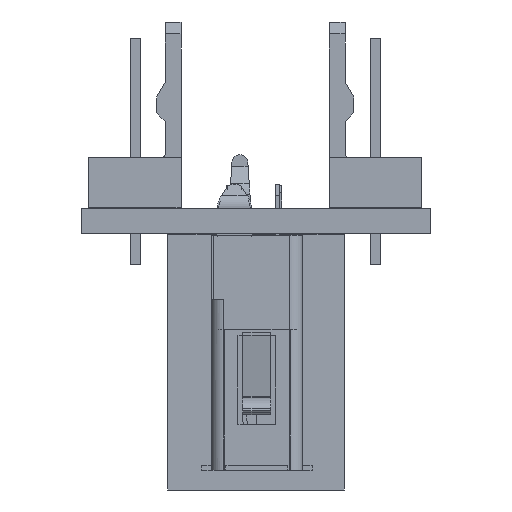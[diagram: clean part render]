
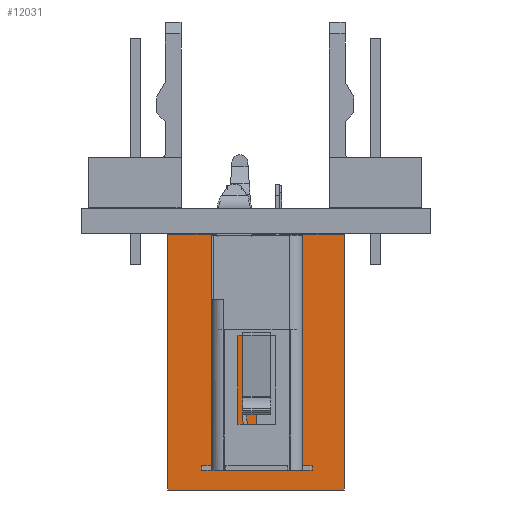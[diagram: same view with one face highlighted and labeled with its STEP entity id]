
A CAD part, front view. The second image highlights one B-rep face of the part: STEP entity #12031.
In plain terms, the highlighted planar face has unit normal (0, -1, 0) as drawn and (-1, 0, 0) by its records, which use the part's own axes.
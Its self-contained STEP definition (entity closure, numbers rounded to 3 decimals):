
#9672 = PLANE('',#9673);
#9673 = AXIS2_PLACEMENT_3D('',#9674,#9675,#9676);
#9674 = CARTESIAN_POINT('',(-7.5,-1.815,-8.05));
#9675 = DIRECTION('',(0.,0.998,0.066));
#9676 = DIRECTION('',(0.,-0.066,0.998));
#9852 = PLANE('',#9853);
#9853 = AXIS2_PLACEMENT_3D('',#9854,#9855,#9856);
#9854 = CARTESIAN_POINT('',(-7.5,-0.215,-8.05));
#9855 = DIRECTION('',(0.,-0.998,0.066));
#9856 = DIRECTION('',(0.,-0.066,-0.998));
#10623 = PLANE('',#10624);
#10624 = AXIS2_PLACEMENT_3D('',#10625,#10626,#10627);
#10625 = CARTESIAN_POINT('',(-6.05,-5.55,-8.05));
#10626 = DIRECTION('',(0.,0.,1.));
#10627 = DIRECTION('',(1.,0.,0.));
#10927 = VERTEX_POINT('',#10928);
#10928 = CARTESIAN_POINT('',(-6.05,-5.55,-8.05));
#10942 = PLANE('',#10943);
#10943 = AXIS2_PLACEMENT_3D('',#10944,#10945,#10946);
#10944 = CARTESIAN_POINT('',(-6.05,-5.55,8.05));
#10945 = DIRECTION('',(0.,1.,0.));
#10946 = DIRECTION('',(0.,0.,1.));
#10954 = EDGE_CURVE('',#10955,#10927,#10957,.T.);
#10955 = VERTEX_POINT('',#10956);
#10956 = CARTESIAN_POINT('',(-6.05,-1.815,-8.05));
#10957 = SURFACE_CURVE('',#10958,(#10962,#10969),.PCURVE_S1.);
#10958 = LINE('',#10959,#10960);
#10959 = CARTESIAN_POINT('',(-6.05,5.55,-8.05));
#10960 = VECTOR('',#10961,1.);
#10961 = DIRECTION('',(0.,-1.,0.));
#10962 = PCURVE('',#10623,#10963);
#10963 = DEFINITIONAL_REPRESENTATION('',(#10964),#10968);
#10964 = LINE('',#10965,#10966);
#10965 = CARTESIAN_POINT('',(0.,11.1));
#10966 = VECTOR('',#10967,1.);
#10967 = DIRECTION('',(0.,-1.));
#10968 = ( GEOMETRIC_REPRESENTATION_CONTEXT(2) 
PARAMETRIC_REPRESENTATION_CONTEXT() REPRESENTATION_CONTEXT('2D SPACE',''
  ) );
#10969 = PCURVE('',#10970,#10975);
#10970 = PLANE('',#10971);
#10971 = AXIS2_PLACEMENT_3D('',#10972,#10973,#10974);
#10972 = CARTESIAN_POINT('',(-6.05,5.55,8.05));
#10973 = DIRECTION('',(1.,0.,0.));
#10974 = DIRECTION('',(0.,1.,0.));
#10975 = DEFINITIONAL_REPRESENTATION('',(#10976),#10980);
#10976 = LINE('',#10977,#10978);
#10977 = CARTESIAN_POINT('',(0.,-16.1));
#10978 = VECTOR('',#10979,1.);
#10979 = DIRECTION('',(-1.,0.));
#10980 = ( GEOMETRIC_REPRESENTATION_CONTEXT(2) 
PARAMETRIC_REPRESENTATION_CONTEXT() REPRESENTATION_CONTEXT('2D SPACE',''
  ) );
#11034 = VERTEX_POINT('',#11035);
#11035 = CARTESIAN_POINT('',(-6.05,-0.215,-8.05));
#11056 = EDGE_CURVE('',#11057,#11034,#11059,.T.);
#11057 = VERTEX_POINT('',#11058);
#11058 = CARTESIAN_POINT('',(-6.05,5.55,-8.05));
#11059 = SURFACE_CURVE('',#11060,(#11064,#11071),.PCURVE_S1.);
#11060 = LINE('',#11061,#11062);
#11061 = CARTESIAN_POINT('',(-6.05,5.55,-8.05));
#11062 = VECTOR('',#11063,1.);
#11063 = DIRECTION('',(0.,-1.,0.));
#11064 = PCURVE('',#10623,#11065);
#11065 = DEFINITIONAL_REPRESENTATION('',(#11066),#11070);
#11066 = LINE('',#11067,#11068);
#11067 = CARTESIAN_POINT('',(0.,11.1));
#11068 = VECTOR('',#11069,1.);
#11069 = DIRECTION('',(0.,-1.));
#11070 = ( GEOMETRIC_REPRESENTATION_CONTEXT(2) 
PARAMETRIC_REPRESENTATION_CONTEXT() REPRESENTATION_CONTEXT('2D SPACE',''
  ) );
#11071 = PCURVE('',#10970,#11072);
#11072 = DEFINITIONAL_REPRESENTATION('',(#11073),#11077);
#11073 = LINE('',#11074,#11075);
#11074 = CARTESIAN_POINT('',(0.,-16.1));
#11075 = VECTOR('',#11076,1.);
#11076 = DIRECTION('',(-1.,0.));
#11077 = ( GEOMETRIC_REPRESENTATION_CONTEXT(2) 
PARAMETRIC_REPRESENTATION_CONTEXT() REPRESENTATION_CONTEXT('2D SPACE',''
  ) );
#11095 = PLANE('',#11096);
#11096 = AXIS2_PLACEMENT_3D('',#11097,#11098,#11099);
#11097 = CARTESIAN_POINT('',(-6.05,5.55,8.05));
#11098 = DIRECTION('',(0.,-1.,0.));
#11099 = DIRECTION('',(0.,0.,-1.));
#12031 = ADVANCED_FACE('',(#12032),#10970,.F.);
#12032 = FACE_BOUND('',#12033,.T.);
#12033 = EDGE_LOOP('',(#12034,#12063,#12084,#12085,#12108,#12136,#12157,
    #12158));
#12034 = ORIENTED_EDGE('',*,*,#12035,.F.);
#12035 = EDGE_CURVE('',#12036,#12038,#12040,.T.);
#12036 = VERTEX_POINT('',#12037);
#12037 = CARTESIAN_POINT('',(-6.05,-1.795,-8.346));
#12038 = VERTEX_POINT('',#12039);
#12039 = CARTESIAN_POINT('',(-6.05,-0.234,-8.346));
#12040 = SURFACE_CURVE('',#12041,(#12045,#12052),.PCURVE_S1.);
#12041 = LINE('',#12042,#12043);
#12042 = CARTESIAN_POINT('',(-6.05,-1.815,-8.346));
#12043 = VECTOR('',#12044,1.);
#12044 = DIRECTION('',(0.,1.,0.));
#12045 = PCURVE('',#10970,#12046);
#12046 = DEFINITIONAL_REPRESENTATION('',(#12047),#12051);
#12047 = LINE('',#12048,#12049);
#12048 = CARTESIAN_POINT('',(-7.365,-16.396));
#12049 = VECTOR('',#12050,1.);
#12050 = DIRECTION('',(1.,0.));
#12051 = ( GEOMETRIC_REPRESENTATION_CONTEXT(2) 
PARAMETRIC_REPRESENTATION_CONTEXT() REPRESENTATION_CONTEXT('2D SPACE',''
  ) );
#12052 = PCURVE('',#12053,#12058);
#12053 = CYLINDRICAL_SURFACE('',#12054,1.5);
#12054 = AXIS2_PLACEMENT_3D('',#12055,#12056,#12057);
#12055 = CARTESIAN_POINT('',(-7.55,-1.815,-8.346));
#12056 = DIRECTION('',(0.,1.,0.));
#12057 = DIRECTION('',(-1.,0.,0.));
#12058 = DEFINITIONAL_REPRESENTATION('',(#12059),#12062);
#12059 = B_SPLINE_CURVE_WITH_KNOTS('',1,(#12060,#12061),.UNSPECIFIED.,
  .F.,.F.,(2,2),(0.02,1.58),
  .PIECEWISE_BEZIER_KNOTS.);
#12060 = CARTESIAN_POINT('',(3.142,0.02));
#12061 = CARTESIAN_POINT('',(3.142,1.58));
#12062 = ( GEOMETRIC_REPRESENTATION_CONTEXT(2) 
PARAMETRIC_REPRESENTATION_CONTEXT() REPRESENTATION_CONTEXT('2D SPACE',''
  ) );
#12063 = ORIENTED_EDGE('',*,*,#12064,.T.);
#12064 = EDGE_CURVE('',#12036,#10955,#12065,.T.);
#12065 = SURFACE_CURVE('',#12066,(#12070,#12077),.PCURVE_S1.);
#12066 = LINE('',#12067,#12068);
#12067 = CARTESIAN_POINT('',(-6.05,-2.847,7.492));
#12068 = VECTOR('',#12069,1.);
#12069 = DIRECTION('',(0.,-0.066,
    0.998));
#12070 = PCURVE('',#10970,#12071);
#12071 = DEFINITIONAL_REPRESENTATION('',(#12072),#12076);
#12072 = LINE('',#12073,#12074);
#12073 = CARTESIAN_POINT('',(-8.397,-0.558));
#12074 = VECTOR('',#12075,1.);
#12075 = DIRECTION('',(-0.066,0.998));
#12076 = ( GEOMETRIC_REPRESENTATION_CONTEXT(2) 
PARAMETRIC_REPRESENTATION_CONTEXT() REPRESENTATION_CONTEXT('2D SPACE',''
  ) );
#12077 = PCURVE('',#9672,#12078);
#12078 = DEFINITIONAL_REPRESENTATION('',(#12079),#12083);
#12079 = LINE('',#12080,#12081);
#12080 = CARTESIAN_POINT('',(15.577,1.45));
#12081 = VECTOR('',#12082,1.);
#12082 = DIRECTION('',(1.,0.));
#12083 = ( GEOMETRIC_REPRESENTATION_CONTEXT(2) 
PARAMETRIC_REPRESENTATION_CONTEXT() REPRESENTATION_CONTEXT('2D SPACE',''
  ) );
#12084 = ORIENTED_EDGE('',*,*,#10954,.T.);
#12085 = ORIENTED_EDGE('',*,*,#12086,.F.);
#12086 = EDGE_CURVE('',#12087,#10927,#12089,.T.);
#12087 = VERTEX_POINT('',#12088);
#12088 = CARTESIAN_POINT('',(-6.05,-5.55,8.05));
#12089 = SURFACE_CURVE('',#12090,(#12094,#12101),.PCURVE_S1.);
#12090 = LINE('',#12091,#12092);
#12091 = CARTESIAN_POINT('',(-6.05,-5.55,8.05));
#12092 = VECTOR('',#12093,1.);
#12093 = DIRECTION('',(0.,0.,-1.));
#12094 = PCURVE('',#10970,#12095);
#12095 = DEFINITIONAL_REPRESENTATION('',(#12096),#12100);
#12096 = LINE('',#12097,#12098);
#12097 = CARTESIAN_POINT('',(-11.1,0.));
#12098 = VECTOR('',#12099,1.);
#12099 = DIRECTION('',(0.,-1.));
#12100 = ( GEOMETRIC_REPRESENTATION_CONTEXT(2) 
PARAMETRIC_REPRESENTATION_CONTEXT() REPRESENTATION_CONTEXT('2D SPACE',''
  ) );
#12101 = PCURVE('',#10942,#12102);
#12102 = DEFINITIONAL_REPRESENTATION('',(#12103),#12107);
#12103 = LINE('',#12104,#12105);
#12104 = CARTESIAN_POINT('',(0.,0.));
#12105 = VECTOR('',#12106,1.);
#12106 = DIRECTION('',(-1.,0.));
#12107 = ( GEOMETRIC_REPRESENTATION_CONTEXT(2) 
PARAMETRIC_REPRESENTATION_CONTEXT() REPRESENTATION_CONTEXT('2D SPACE',''
  ) );
#12108 = ORIENTED_EDGE('',*,*,#12109,.F.);
#12109 = EDGE_CURVE('',#12110,#12087,#12112,.T.);
#12110 = VERTEX_POINT('',#12111);
#12111 = CARTESIAN_POINT('',(-6.05,5.55,8.05));
#12112 = SURFACE_CURVE('',#12113,(#12117,#12124),.PCURVE_S1.);
#12113 = LINE('',#12114,#12115);
#12114 = CARTESIAN_POINT('',(-6.05,5.55,8.05));
#12115 = VECTOR('',#12116,1.);
#12116 = DIRECTION('',(0.,-1.,0.));
#12117 = PCURVE('',#10970,#12118);
#12118 = DEFINITIONAL_REPRESENTATION('',(#12119),#12123);
#12119 = LINE('',#12120,#12121);
#12120 = CARTESIAN_POINT('',(0.,0.));
#12121 = VECTOR('',#12122,1.);
#12122 = DIRECTION('',(-1.,0.));
#12123 = ( GEOMETRIC_REPRESENTATION_CONTEXT(2) 
PARAMETRIC_REPRESENTATION_CONTEXT() REPRESENTATION_CONTEXT('2D SPACE',''
  ) );
#12124 = PCURVE('',#12125,#12130);
#12125 = PLANE('',#12126);
#12126 = AXIS2_PLACEMENT_3D('',#12127,#12128,#12129);
#12127 = CARTESIAN_POINT('',(-6.05,-5.55,8.05));
#12128 = DIRECTION('',(0.,0.,1.));
#12129 = DIRECTION('',(1.,0.,0.));
#12130 = DEFINITIONAL_REPRESENTATION('',(#12131),#12135);
#12131 = LINE('',#12132,#12133);
#12132 = CARTESIAN_POINT('',(0.,11.1));
#12133 = VECTOR('',#12134,1.);
#12134 = DIRECTION('',(0.,-1.));
#12135 = ( GEOMETRIC_REPRESENTATION_CONTEXT(2) 
PARAMETRIC_REPRESENTATION_CONTEXT() REPRESENTATION_CONTEXT('2D SPACE',''
  ) );
#12136 = ORIENTED_EDGE('',*,*,#12137,.T.);
#12137 = EDGE_CURVE('',#12110,#11057,#12138,.T.);
#12138 = SURFACE_CURVE('',#12139,(#12143,#12150),.PCURVE_S1.);
#12139 = LINE('',#12140,#12141);
#12140 = CARTESIAN_POINT('',(-6.05,5.55,8.05));
#12141 = VECTOR('',#12142,1.);
#12142 = DIRECTION('',(0.,0.,-1.));
#12143 = PCURVE('',#10970,#12144);
#12144 = DEFINITIONAL_REPRESENTATION('',(#12145),#12149);
#12145 = LINE('',#12146,#12147);
#12146 = CARTESIAN_POINT('',(0.,0.));
#12147 = VECTOR('',#12148,1.);
#12148 = DIRECTION('',(0.,-1.));
#12149 = ( GEOMETRIC_REPRESENTATION_CONTEXT(2) 
PARAMETRIC_REPRESENTATION_CONTEXT() REPRESENTATION_CONTEXT('2D SPACE',''
  ) );
#12150 = PCURVE('',#11095,#12151);
#12151 = DEFINITIONAL_REPRESENTATION('',(#12152),#12156);
#12152 = LINE('',#12153,#12154);
#12153 = CARTESIAN_POINT('',(0.,0.));
#12154 = VECTOR('',#12155,1.);
#12155 = DIRECTION('',(1.,0.));
#12156 = ( GEOMETRIC_REPRESENTATION_CONTEXT(2) 
PARAMETRIC_REPRESENTATION_CONTEXT() REPRESENTATION_CONTEXT('2D SPACE',''
  ) );
#12157 = ORIENTED_EDGE('',*,*,#11056,.T.);
#12158 = ORIENTED_EDGE('',*,*,#12159,.T.);
#12159 = EDGE_CURVE('',#11034,#12038,#12160,.T.);
#12160 = SURFACE_CURVE('',#12161,(#12165,#12172),.PCURVE_S1.);
#12161 = LINE('',#12162,#12163);
#12162 = CARTESIAN_POINT('',(-6.05,0.875,8.36));
#12163 = VECTOR('',#12164,1.);
#12164 = DIRECTION('',(0.,-0.066,
    -0.998));
#12165 = PCURVE('',#10970,#12166);
#12166 = DEFINITIONAL_REPRESENTATION('',(#12167),#12171);
#12167 = LINE('',#12168,#12169);
#12168 = CARTESIAN_POINT('',(-4.675,0.31));
#12169 = VECTOR('',#12170,1.);
#12170 = DIRECTION('',(-0.066,-0.998));
#12171 = ( GEOMETRIC_REPRESENTATION_CONTEXT(2) 
PARAMETRIC_REPRESENTATION_CONTEXT() REPRESENTATION_CONTEXT('2D SPACE',''
  ) );
#12172 = PCURVE('',#9852,#12173);
#12173 = DEFINITIONAL_REPRESENTATION('',(#12174),#12178);
#12174 = LINE('',#12175,#12176);
#12175 = CARTESIAN_POINT('',(-16.447,1.45));
#12176 = VECTOR('',#12177,1.);
#12177 = DIRECTION('',(1.,0.));
#12178 = ( GEOMETRIC_REPRESENTATION_CONTEXT(2) 
PARAMETRIC_REPRESENTATION_CONTEXT() REPRESENTATION_CONTEXT('2D SPACE',''
  ) );
